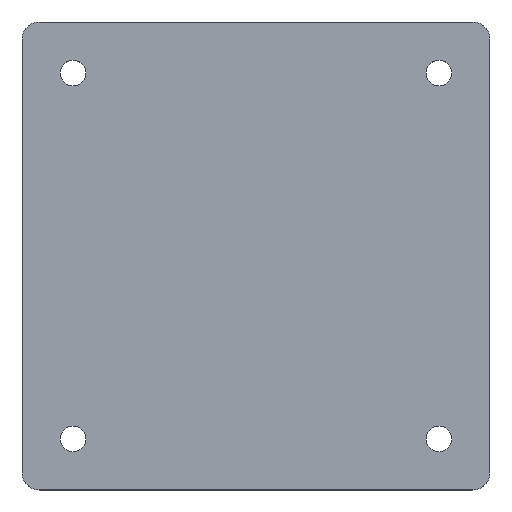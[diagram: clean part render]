
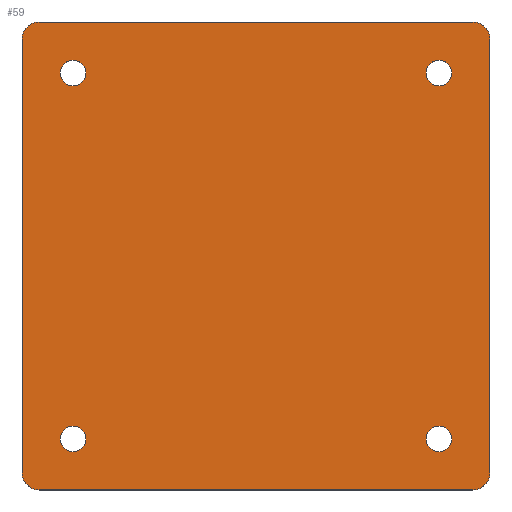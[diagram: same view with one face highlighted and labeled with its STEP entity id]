
A CAD part, top view. The second image highlights one B-rep face of the part: STEP entity #59.
In plain terms, the highlighted planar face has unit normal (0, 0, 1).
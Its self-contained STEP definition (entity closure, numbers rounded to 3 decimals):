
#21 = EDGE_CURVE('',#22,#24,#26,.T.);
#22 = VERTEX_POINT('',#23);
#23 = CARTESIAN_POINT('',(0.,2.,2.5));
#24 = VERTEX_POINT('',#25);
#25 = CARTESIAN_POINT('',(2.,0.,2.5));
#26 = CIRCLE('',#27,2.);
#27 = AXIS2_PLACEMENT_3D('',#28,#29,#30);
#28 = CARTESIAN_POINT('',(2.,2.,2.5));
#29 = DIRECTION('',(0.,0.,1.));
#30 = DIRECTION('',(1.,0.,-0.));
#59 = ADVANCED_FACE('',(#60,#120,#131,#142,#153),#164,.T.);
#60 = FACE_BOUND('',#61,.T.);
#61 = EDGE_LOOP('',(#62,#63,#71,#80,#88,#97,#105,#114));
#62 = ORIENTED_EDGE('',*,*,#21,.T.);
#63 = ORIENTED_EDGE('',*,*,#64,.T.);
#64 = EDGE_CURVE('',#24,#65,#67,.T.);
#65 = VERTEX_POINT('',#66);
#66 = CARTESIAN_POINT('',(53.,0.,2.5));
#67 = LINE('',#68,#69);
#68 = CARTESIAN_POINT('',(2.,0.,2.5));
#69 = VECTOR('',#70,1.);
#70 = DIRECTION('',(1.,0.,-0.));
#71 = ORIENTED_EDGE('',*,*,#72,.T.);
#72 = EDGE_CURVE('',#65,#73,#75,.T.);
#73 = VERTEX_POINT('',#74);
#74 = CARTESIAN_POINT('',(55.,2.,2.5));
#75 = CIRCLE('',#76,2.);
#76 = AXIS2_PLACEMENT_3D('',#77,#78,#79);
#77 = CARTESIAN_POINT('',(53.,2.,2.5));
#78 = DIRECTION('',(0.,0.,1.));
#79 = DIRECTION('',(1.,0.,-0.));
#80 = ORIENTED_EDGE('',*,*,#81,.T.);
#81 = EDGE_CURVE('',#73,#82,#84,.T.);
#82 = VERTEX_POINT('',#83);
#83 = CARTESIAN_POINT('',(55.,53.,2.5));
#84 = LINE('',#85,#86);
#85 = CARTESIAN_POINT('',(55.,2.,2.5));
#86 = VECTOR('',#87,1.);
#87 = DIRECTION('',(-0.,1.,0.));
#88 = ORIENTED_EDGE('',*,*,#89,.T.);
#89 = EDGE_CURVE('',#82,#90,#92,.T.);
#90 = VERTEX_POINT('',#91);
#91 = CARTESIAN_POINT('',(53.,55.,2.5));
#92 = CIRCLE('',#93,2.);
#93 = AXIS2_PLACEMENT_3D('',#94,#95,#96);
#94 = CARTESIAN_POINT('',(53.,53.,2.5));
#95 = DIRECTION('',(0.,0.,1.));
#96 = DIRECTION('',(1.,0.,-0.));
#97 = ORIENTED_EDGE('',*,*,#98,.F.);
#98 = EDGE_CURVE('',#99,#90,#101,.T.);
#99 = VERTEX_POINT('',#100);
#100 = CARTESIAN_POINT('',(2.,55.,2.5));
#101 = LINE('',#102,#103);
#102 = CARTESIAN_POINT('',(2.,55.,2.5));
#103 = VECTOR('',#104,1.);
#104 = DIRECTION('',(1.,0.,-0.));
#105 = ORIENTED_EDGE('',*,*,#106,.T.);
#106 = EDGE_CURVE('',#99,#107,#109,.T.);
#107 = VERTEX_POINT('',#108);
#108 = CARTESIAN_POINT('',(0.,53.,2.5));
#109 = CIRCLE('',#110,2.);
#110 = AXIS2_PLACEMENT_3D('',#111,#112,#113);
#111 = CARTESIAN_POINT('',(2.,53.,2.5));
#112 = DIRECTION('',(0.,0.,1.));
#113 = DIRECTION('',(1.,0.,-0.));
#114 = ORIENTED_EDGE('',*,*,#115,.F.);
#115 = EDGE_CURVE('',#22,#107,#116,.T.);
#116 = LINE('',#117,#118);
#117 = CARTESIAN_POINT('',(0.,2.,2.5));
#118 = VECTOR('',#119,1.);
#119 = DIRECTION('',(-0.,1.,0.));
#120 = FACE_BOUND('',#121,.T.);
#121 = EDGE_LOOP('',(#122));
#122 = ORIENTED_EDGE('',*,*,#123,.F.);
#123 = EDGE_CURVE('',#124,#124,#126,.T.);
#124 = VERTEX_POINT('',#125);
#125 = CARTESIAN_POINT('',(7.5,6.,2.5));
#126 = CIRCLE('',#127,1.5);
#127 = AXIS2_PLACEMENT_3D('',#128,#129,#130);
#128 = CARTESIAN_POINT('',(6.,6.,2.5));
#129 = DIRECTION('',(0.,0.,1.));
#130 = DIRECTION('',(1.,0.,-0.));
#131 = FACE_BOUND('',#132,.T.);
#132 = EDGE_LOOP('',(#133));
#133 = ORIENTED_EDGE('',*,*,#134,.F.);
#134 = EDGE_CURVE('',#135,#135,#137,.T.);
#135 = VERTEX_POINT('',#136);
#136 = CARTESIAN_POINT('',(50.5,6.,2.5));
#137 = CIRCLE('',#138,1.5);
#138 = AXIS2_PLACEMENT_3D('',#139,#140,#141);
#139 = CARTESIAN_POINT('',(49.,6.,2.5));
#140 = DIRECTION('',(0.,0.,1.));
#141 = DIRECTION('',(1.,0.,-0.));
#142 = FACE_BOUND('',#143,.T.);
#143 = EDGE_LOOP('',(#144));
#144 = ORIENTED_EDGE('',*,*,#145,.F.);
#145 = EDGE_CURVE('',#146,#146,#148,.T.);
#146 = VERTEX_POINT('',#147);
#147 = CARTESIAN_POINT('',(7.5,49.,2.5));
#148 = CIRCLE('',#149,1.5);
#149 = AXIS2_PLACEMENT_3D('',#150,#151,#152);
#150 = CARTESIAN_POINT('',(6.,49.,2.5));
#151 = DIRECTION('',(0.,0.,1.));
#152 = DIRECTION('',(1.,0.,-0.));
#153 = FACE_BOUND('',#154,.T.);
#154 = EDGE_LOOP('',(#155));
#155 = ORIENTED_EDGE('',*,*,#156,.F.);
#156 = EDGE_CURVE('',#157,#157,#159,.T.);
#157 = VERTEX_POINT('',#158);
#158 = CARTESIAN_POINT('',(50.5,49.,2.5));
#159 = CIRCLE('',#160,1.5);
#160 = AXIS2_PLACEMENT_3D('',#161,#162,#163);
#161 = CARTESIAN_POINT('',(49.,49.,2.5));
#162 = DIRECTION('',(0.,0.,1.));
#163 = DIRECTION('',(1.,0.,-0.));
#164 = PLANE('',#165);
#165 = AXIS2_PLACEMENT_3D('',#166,#167,#168);
#166 = CARTESIAN_POINT('',(27.5,27.5,2.5));
#167 = DIRECTION('',(0.,0.,1.));
#168 = DIRECTION('',(1.,0.,-0.));
